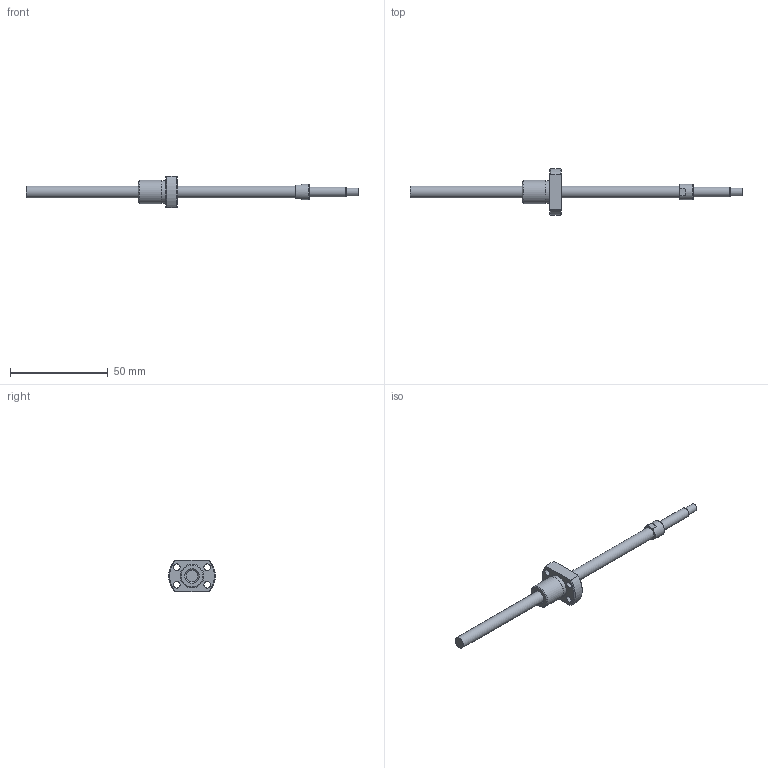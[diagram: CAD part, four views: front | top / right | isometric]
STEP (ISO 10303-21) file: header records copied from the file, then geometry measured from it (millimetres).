
FILE_DESCRIPTION(/* description */ ('STEP AP214'),/* implementation_level */ '2;1');
FILE_NAME(/* name */ 'NSGF0601Z-135R170C3-0-T-S-T-A-(57.5-S)',/* time_stamp */ '2026-08-24T20:03:56+02:00',/* author */ ('License CC BY-ND 4.0'),/* organization */ ('CADENAS'),/* preprocessor_version */ 'ST-DEVELOPER v20',/* originating_system */ 'PARTsolutions',/* authorisation */ ' ');
FILE_SCHEMA (('AUTOMOTIVE_DESIGN {1 0 10303 214 3 1 1}'));
Length unit declared in the file: millimetre
Products named in the file (3): NSGF0601Z-135R170C3-0-T-S-T-A-(57.5-S); NSG0601Z-135R170_(T-S_T-A_2)_2; NSGF0601Z-1
Assembly tree (2 placements, depth 2):
  NSGF0601Z-135R170C3-0-T-S-T-A-(57.5-S)
    NSG0601Z-135R170_(T-S_T-A_2)_2
    NSGF0601Z-1
Bounding box: 170 x 23.92 x 16 mm (x, y, z)
Volume: 7381 mm3; surface area: 5423.3 mm2
Topology: 2 solids, 2 shells, 39 faces, 85 edges, 56 vertices
Faces by surface type: plane 16, cylinder 14, cone 8, torus 1
Full cylindrical faces by diameter (mm): 3.4 x4, 4 x1, 5 x1, 6 x2, 8 x1, 10 x1, 11.7 x1, 12 x1
Entity records: 1065 total; most frequent: CARTESIAN_POINT 182, DIRECTION 180, ORIENTED_EDGE 128, AXIS2_PLACEMENT_3D 82, EDGE_LOOP 72, FACE_BOUND 72, EDGE_CURVE 64, VERTEX_POINT 52
